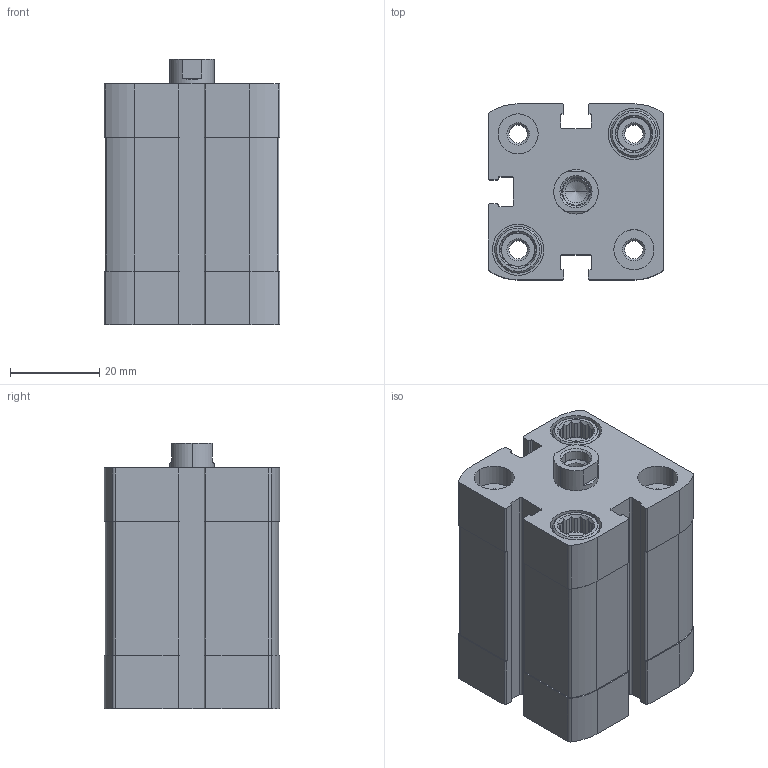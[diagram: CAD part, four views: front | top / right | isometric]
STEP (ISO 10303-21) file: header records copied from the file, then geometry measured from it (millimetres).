
FILE_DESCRIPTION (( 'STEP AP203' ), '1' );
FILE_NAME ('CCN25-15F.STEP', '2017-03-28T17:13:10', ( '' ), ( '' ), 'SwSTEP 2.0', 'SolidWorks 2016', '' );
FILE_SCHEMA (( 'CONFIG_CONTROL_DESIGN' ));
Length unit declared in the file: millimetre
Products named in the file (3): CCN-15---(Z); CCN-15-_(KS); CCN25-15F
Assembly tree (2 placements, depth 2):
  CCN25-15F
    CCN-15---(Z)
    CCN-15-_(KS)
Bounding box: 39.5 x 39.5 x 59.5 mm (x, y, z)
Volume: 64448.1 mm3; surface area: 24879.9 mm2
Topology: 2 solids, 2 shells, 407 faces, 1086 edges, 713 vertices
Faces by surface type: plane 231, cylinder 134, cone 42
Entity records: 13181 total; most frequent: CARTESIAN_POINT 2503, DIRECTION 2228, ORIENTED_EDGE 2168, EDGE_CURVE 1084, AXIS2_PLACEMENT_3D 830, VERTEX_POINT 713, LINE 568, VECTOR 568
